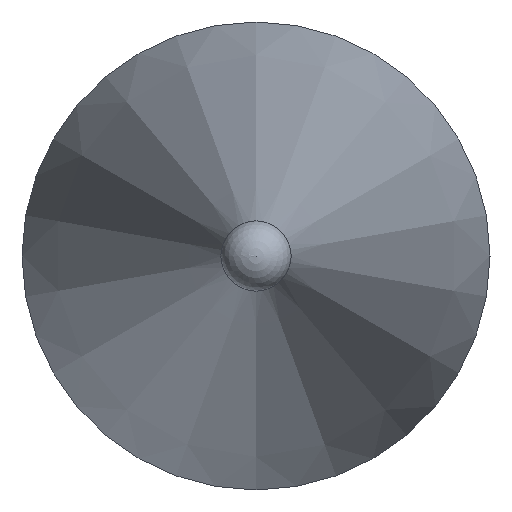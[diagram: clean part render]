
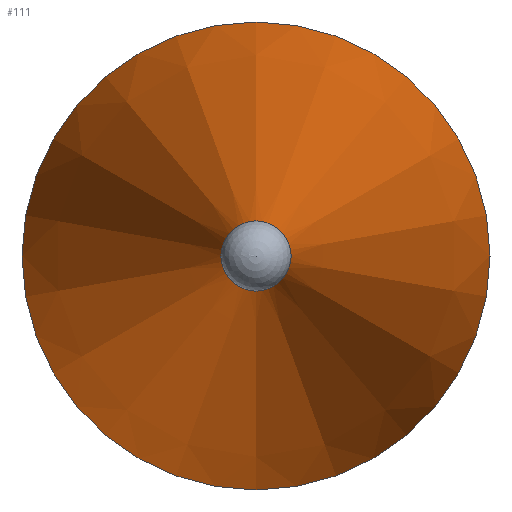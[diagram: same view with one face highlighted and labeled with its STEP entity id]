
A CAD part, left-side view. The second image highlights one B-rep face of the part: STEP entity #111.
In plain terms, the highlighted conical face has half-angle 12 degrees and reference radius 2 mm.
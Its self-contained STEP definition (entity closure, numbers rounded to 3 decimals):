
#95=CONICAL_SURFACE('',#160,2.,12.);
#101=FACE_BOUND('',#121,.T.);
#102=FACE_BOUND('',#122,.T.);
#111=ADVANCED_FACE('',(#101,#102),#95,.T.);
#121=EDGE_LOOP('',(#131));
#122=EDGE_LOOP('',(#132));
#131=ORIENTED_EDGE('',*,*,#144,.F.);
#132=ORIENTED_EDGE('',*,*,#145,.T.);
#139=VERTEX_POINT('',#196);
#140=VERTEX_POINT('',#199);
#144=EDGE_CURVE('',#139,#139,#149,.T.);
#145=EDGE_CURVE('',#140,#140,#150,.T.);
#149=CIRCLE('',#157,0.3);
#150=CIRCLE('',#159,2.);
#157=AXIS2_PLACEMENT_3D('',#195,#174,#175);
#159=AXIS2_PLACEMENT_3D('',#198,#178,#179);
#160=AXIS2_PLACEMENT_3D('',#200,#180,#181);
#174=DIRECTION('',(-1.,0.,0.));
#175=DIRECTION('',(0.,0.,1.));
#178=DIRECTION('',(-1.,0.,0.));
#179=DIRECTION('',(0.,0.,1.));
#180=DIRECTION('',(1.,0.,0.));
#181=DIRECTION('',(0.,0.,-1.));
#195=CARTESIAN_POINT('',(7888.762,6105.041,0.));
#196=CARTESIAN_POINT('',(7888.762,6105.041,0.3));
#198=CARTESIAN_POINT('',(7896.76,6105.041,0.));
#199=CARTESIAN_POINT('',(7896.76,6105.041,2.));
#200=CARTESIAN_POINT('',(7896.76,6105.041,0.));
